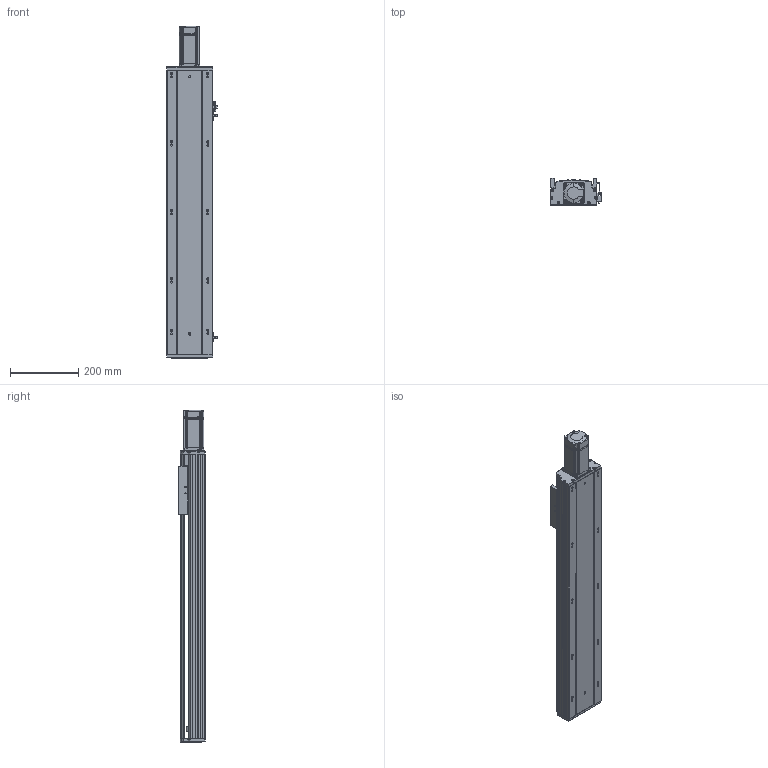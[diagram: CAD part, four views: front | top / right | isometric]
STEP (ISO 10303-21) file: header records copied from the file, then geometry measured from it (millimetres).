
FILE_DESCRIPTION (( 'STEP AP203' ), '1' );
FILE_NAME ('RY140Q-L2010-700-MK.SLDASM_0600.step', '2021-05-27T03:22:03', ( '盈信电脑' ), ( '东莞市道滘镇水果街19号' ), 'SwSTEP 2.0', 'SolidWorks 2016', '' );
FILE_SCHEMA (( 'CONFIG_CONTROL_DESIGN' ));
Length unit declared in the file: millimetre
Products named in the file (14): RY140Q臏賑輸(20佪裝-J); RY140綴裔啣; RY140Q-700-MK倰第菁釱_0600; 侂狟400W侜督萇儂; RY140ヶ裔啣; RY140Q-L2010-700-MK.SLDASM_0600; RY120外置感应片(140共用）; 滅袉蝶18-15; 15; 覜茼ん672; RY140Q-700-MK倰第奻裔啣_0600; RY140Q萇儂傷盓傅釱FK12(80.5酗M5); 滅袉蝶18-10; 鞠褒坶踡蹟譫BK12 
Assembly tree (16 placements, depth 3):
  RY140Q-L2010-700-MK.SLDASM_0600
    RY140Q-700-MK倰第菁釱_0600
    RY140Q臏賑輸(20佪裝-J)
    RY140Q-700-MK倰第奻裔啣_0600
    RY140ヶ裔啣
    侂狟400W侜督萇儂
      15
    鞠褒坶踡蹟譫BK12 
    RY140綴裔啣
    覜茼ん672  x3
    RY120外置感应片(140共用）
    RY140Q萇儂傷盓傅釱FK12(80.5酗M5)
    滅袉蝶18-10
    滅袉蝶18-15  x2
Bounding box: 148.7 x 78 x 969.5 mm (x, y, z)
Volume: 2887258.1 mm3; surface area: 1015735.7 mm2
Topology: 15 solids, 15 shells, 2057 faces, 5664 edges, 3631 vertices
Faces by surface type: plane 1082, cylinder 702, cone 188, bspline 85
Entity records: 67907 total; most frequent: CARTESIAN_POINT 16288, ORIENTED_EDGE 10644, DIRECTION 10116, EDGE_CURVE 5322, VERTEX_POINT 3491, LINE 3452, VECTOR 3452, AXIS2_PLACEMENT_3D 3332
